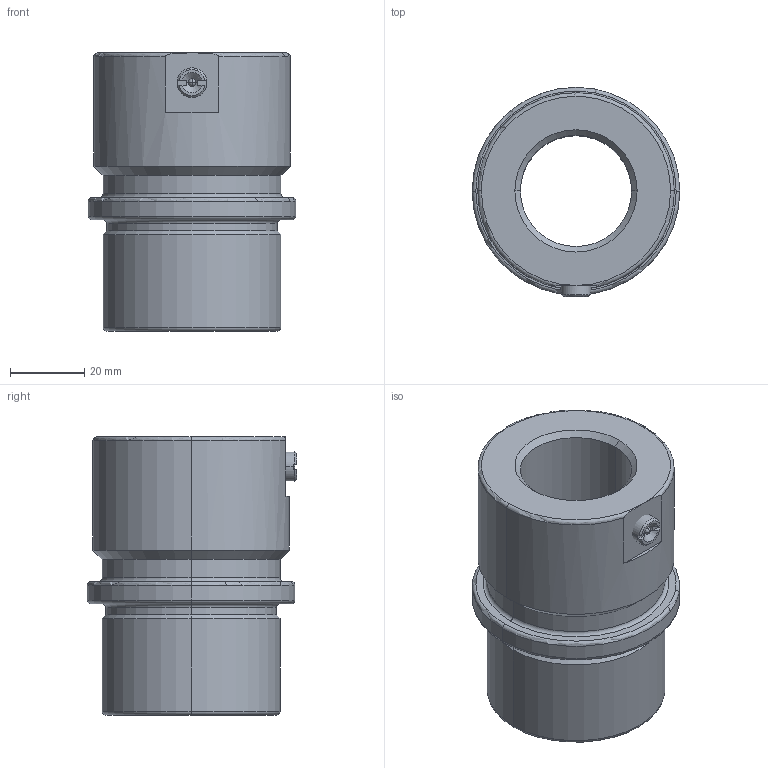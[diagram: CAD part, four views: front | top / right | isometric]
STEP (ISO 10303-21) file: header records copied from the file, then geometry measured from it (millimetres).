
FILE_DESCRIPTION(('CATIA V5 STEP Exchange'),'2;1');
FILE_NAME('C:\Users\Utente\Desktop\IO LAVORO\3D X SITO CF\X SITO\744\744-30.stp','2020-12-23T21:17:30+00:00',('none'),('none'),'CATIA Version 5 Release 20 GA (IN-10)','CATIA V5 STEP AP203','none');
FILE_SCHEMA(('CONFIG_CONTROL_DESIGN'));
Length unit declared in the file: millimetre
Products named in the file (1): 744-30
Bounding box: 56 x 56.5 x 75 mm (x, y, z)
Volume: 98305.8 mm3; surface area: 23220.3 mm2
Topology: 2 solids, 2 shells, 67 faces, 156 edges, 92 vertices
Faces by surface type: cylinder 16, plane 16, cone 16, torus 15, sphere 4
Entity records: 2045 total; most frequent: CARTESIAN_POINT 547, ORIENTED_EDGE 304, DIRECTION 266, AXIS2_PLACEMENT_3D 155, EDGE_CURVE 152, VERTEX_POINT 92, CIRCLE 87, EDGE_LOOP 74
